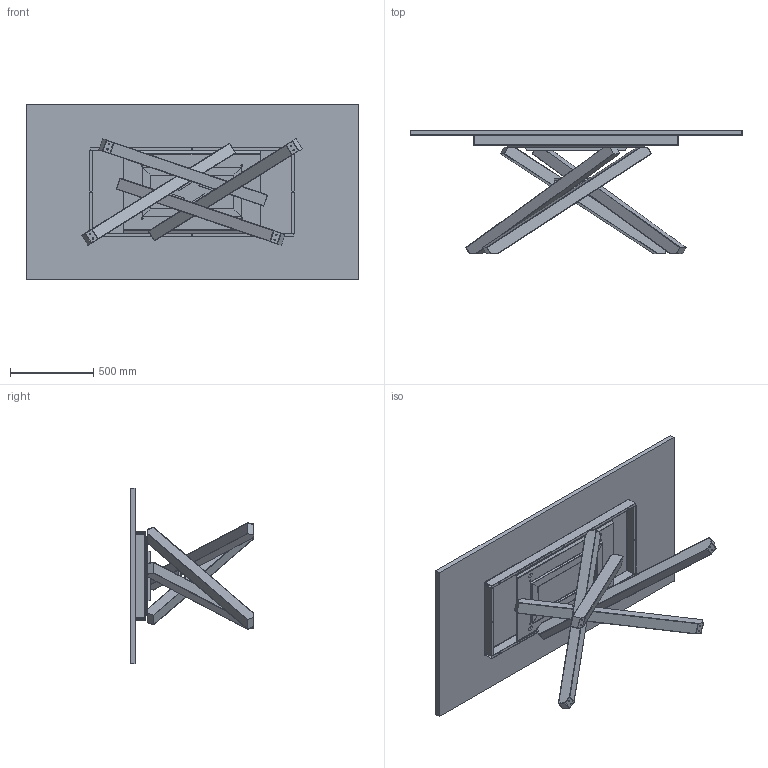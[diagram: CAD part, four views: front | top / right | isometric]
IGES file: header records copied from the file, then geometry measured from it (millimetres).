
Start section: SolidWorks IGES file using NURBS representation for surfaces
Global section: file name: R:\UFFICIO TECNICO\ARCHIVIO DISEGNI\3D\PECHINO FISSO LG.IGS; native system: SolidWorks 2011; preprocessor: SolidWorks 2011; author: Alberto; date: 140423.111117; units: millimetre
Bounding box: 2000 x 745.49 x 1060 mm (x, y, z)
Surface area: 9734343.5 mm2 (no closed solid volume)
Topology: 0 solids, 0 shells, 606 faces, 8700 edges, 8688 vertices
Faces by surface type: bspline 606
